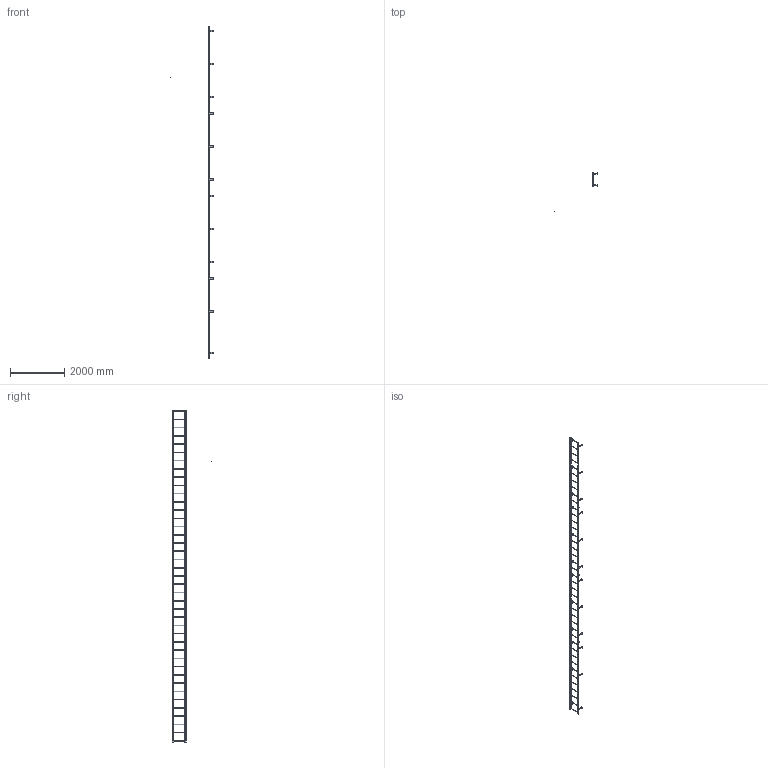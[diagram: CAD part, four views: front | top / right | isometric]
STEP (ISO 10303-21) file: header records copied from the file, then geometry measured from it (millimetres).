
FILE_DESCRIPTION(/* description */ (''),/* implementation_level */ '2;1');
FILE_NAME(/* name */ 'P:\MIKEL & KAREN\3570357 F41S SIMPLIFIED PART.stp',/* time_stamp */ '2018-07-02T16:03:50-04:00',/* author */ ('stephanie'),/* organization */ (''),/* preprocessor_version */ 'ST-DEVELOPER v16.1',/* originating_system */ 'Autodesk Inventor 2016',/* authorisation */ '');
FILE_SCHEMA (('AUTOMOTIVE_DESIGN { 1 0 10303 214 3 1 1 }'));
Length unit declared in the file: centimetre
Products named in the file (1): 3570357 F41S SIMPLIFIED PART
Bounding box: 1596.45 x 1474.72 x 12268.2 mm (x, y, z)
Volume: 21608114.2 mm3; surface area: 6493106.6 mm2
Topology: 44 solids, 44 shells, 680 faces, 1840 edges, 1224 vertices
Faces by surface type: plane 406, cylinder 274
Full cylindrical faces by diameter (mm): 0.254 x1, 14.287 x30, 19.05 x41, 22.225 x82
Entity records: 20893 total; most frequent: DIRECTION 3532, CARTESIAN_POINT 3367, ORIENTED_EDGE 3148, EDGE_CURVE 1574, AXIS2_PLACEMENT_3D 1277, VERTEX_POINT 1112, EDGE_LOOP 1058, LINE 978
